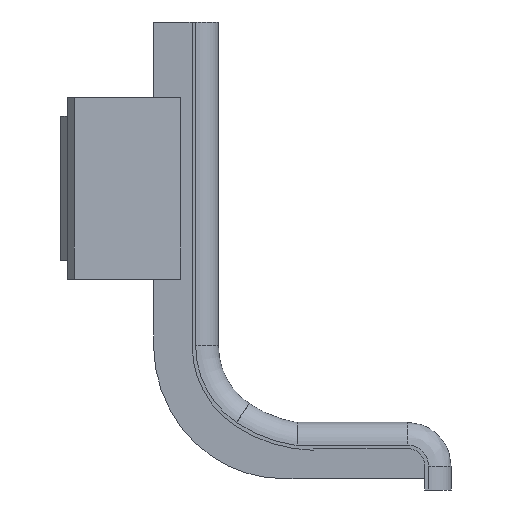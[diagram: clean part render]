
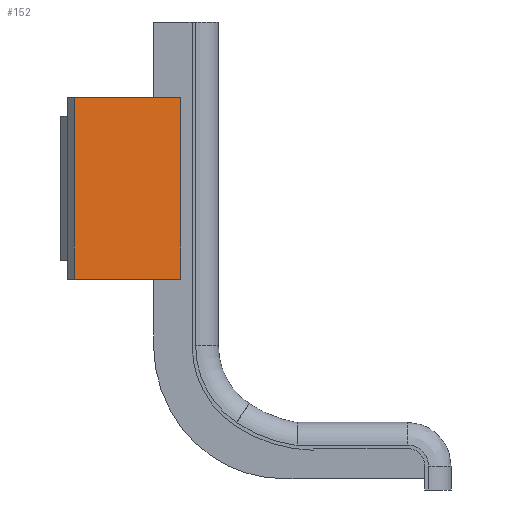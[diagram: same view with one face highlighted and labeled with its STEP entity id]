
A CAD part, left-side view. The second image highlights one B-rep face of the part: STEP entity #152.
In plain terms, the highlighted planar face has unit normal (-0.707, -0.707, 0).
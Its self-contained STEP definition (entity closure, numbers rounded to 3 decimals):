
#152 = ADVANCED_FACE( '', ( #321 ), #322, .T. );
#321 = FACE_OUTER_BOUND( '', #528, .T. );
#322 = PLANE( '', #529 );
#528 = EDGE_LOOP( '', ( #850, #851, #852, #853 ) );
#529 = AXIS2_PLACEMENT_3D( '', #854, #855, #856 );
#850 = ORIENTED_EDGE( '', *, *, #1304, .F. );
#851 = ORIENTED_EDGE( '', *, *, #1305, .F. );
#852 = ORIENTED_EDGE( '', *, *, #1306, .T. );
#853 = ORIENTED_EDGE( '', *, *, #1307, .T. );
#854 = CARTESIAN_POINT( '', ( -13.162, 42.531, 24.06 ) );
#855 = DIRECTION( '', ( -0.707, -0.707, 0. ) );
#856 = DIRECTION( '', ( 0.707, -0.707, 0. ) );
#1304 = EDGE_CURVE( '', #1606, #1607, #1608, .T. );
#1305 = EDGE_CURVE( '', #1609, #1606, #1610, .T. );
#1306 = EDGE_CURVE( '', #1609, #1611, #1612, .T. );
#1307 = EDGE_CURVE( '', #1611, #1607, #1613, .T. );
#1606 = VERTEX_POINT( '', #2047 );
#1607 = VERTEX_POINT( '', #2048 );
#1608 = LINE( '', #2049, #2050 );
#1609 = VERTEX_POINT( '', #2051 );
#1610 = LINE( '', #2052, #2053 );
#1611 = VERTEX_POINT( '', #2054 );
#1612 = LINE( '', #2055, #2056 );
#1613 = LINE( '', #2057, #2058 );
#2047 = CARTESIAN_POINT( '', ( -13.162, 42.531, 44.86 ) );
#2048 = CARTESIAN_POINT( '', ( -1., 30.369, 44.86 ) );
#2049 = CARTESIAN_POINT( '', ( -13.162, 42.531, 44.86 ) );
#2050 = VECTOR( '', #2392, 1000. );
#2051 = CARTESIAN_POINT( '', ( -13.162, 42.531, 24.06 ) );
#2052 = CARTESIAN_POINT( '', ( -13.162, 42.531, 24.06 ) );
#2053 = VECTOR( '', #2393, 1000. );
#2054 = CARTESIAN_POINT( '', ( -1., 30.369, 24.06 ) );
#2055 = CARTESIAN_POINT( '', ( -13.162, 42.531, 24.06 ) );
#2056 = VECTOR( '', #2394, 1000. );
#2057 = CARTESIAN_POINT( '', ( -1., 30.369, 24.06 ) );
#2058 = VECTOR( '', #2395, 1000. );
#2392 = DIRECTION( '', ( 0.707, -0.707, 0. ) );
#2393 = DIRECTION( '', ( 0., 0., 1. ) );
#2394 = DIRECTION( '', ( 0.707, -0.707, 0. ) );
#2395 = DIRECTION( '', ( 0., 0., 1. ) );
